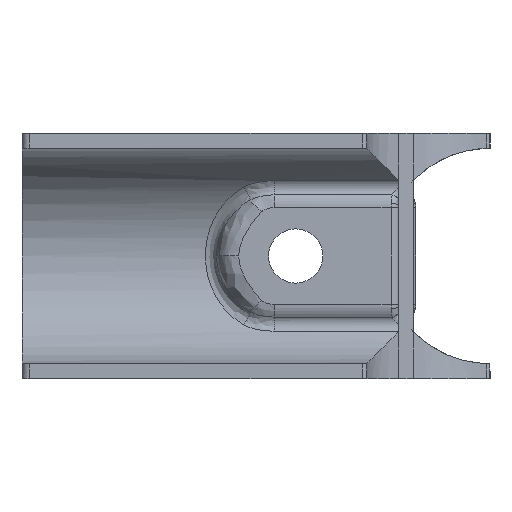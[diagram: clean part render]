
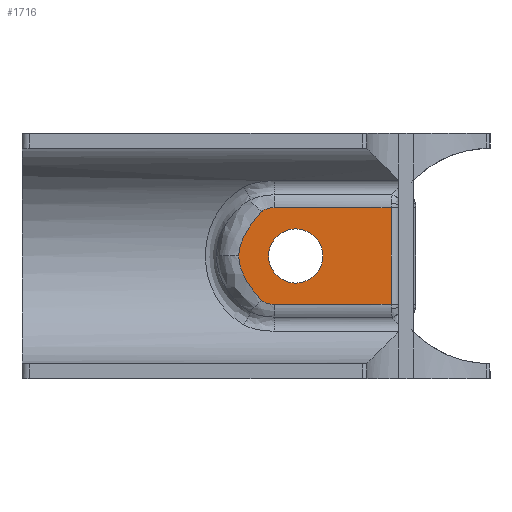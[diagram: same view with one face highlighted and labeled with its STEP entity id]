
A CAD part, front view. The second image highlights one B-rep face of the part: STEP entity #1716.
In plain terms, the highlighted planar face has unit normal (0, -1, 0).
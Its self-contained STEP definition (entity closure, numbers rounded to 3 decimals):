
#48 = CARTESIAN_POINT ( 'NONE',  ( -28.64, 10., 22.442 ) ) ;
#73 = CARTESIAN_POINT ( 'NONE',  ( -31.5, 10., 15.083 ) ) ;
#78 = ORIENTED_EDGE ( 'NONE', *, *, #686, .T. ) ;
#144 = CARTESIAN_POINT ( 'NONE',  ( -27.103, 10., 9.989 ) ) ;
#145 = CARTESIAN_POINT ( 'NONE',  ( -30.966, 10., 13.757 ) ) ;
#181 = ORIENTED_EDGE ( 'NONE', *, *, #4298, .T. ) ;
#183 = CARTESIAN_POINT ( 'NONE',  ( -26.95, 10., 9.989 ) ) ;
#223 = ORIENTED_EDGE ( 'NONE', *, *, #5110, .T. ) ;
#355 = LINE ( 'NONE', #1715, #2782 ) ;
#448 = CARTESIAN_POINT ( 'NONE',  ( -30.841, 10., 19.48 ) ) ;
#467 = AXIS2_PLACEMENT_3D ( 'NONE', #1738, #3435, #3083 ) ;
#474 = CARTESIAN_POINT ( 'NONE',  ( -26.95, 10., 23.011 ) ) ;
#480 = B_SPLINE_CURVE_WITH_KNOTS ( 'NONE', 3,
 ( #3905, #5205, #507, #2621, #5182, #448, #5239, #3515, #862, #3457, #4808, #3942 ),
 .UNSPECIFIED., .F., .F.,
 ( 4, 2, 2, 2, 2, 4 ),
 ( 0., 0.002, 0.003, 0.004, 0.005, 0.007 ),
 .UNSPECIFIED. ) ;
#507 = CARTESIAN_POINT ( 'NONE',  ( -29.409, 10., 21.599 ) ) ;
#509 = DIRECTION ( 'NONE',  ( 0., 0., 1. ) ) ;
#544 = CARTESIAN_POINT ( 'NONE',  ( -29.402, 10., 11.404 ) ) ;
#558 = CARTESIAN_POINT ( 'NONE',  ( -11.2, 10., 9.989 ) ) ;
#639 = EDGE_CURVE ( 'NONE', #4558, #3834, #2470, .T. ) ;
#647 = AXIS2_PLACEMENT_3D ( 'NONE', #750, #798, #4700 ) ;
#686 = EDGE_CURVE ( 'NONE', #2090, #3628, #480, .T. ) ;
#733 = CARTESIAN_POINT ( 'NONE',  ( -26.95, 10., 23.011 ) ) ;
#750 = CARTESIAN_POINT ( 'NONE',  ( -24.05, 10., 16.5 ) ) ;
#798 = DIRECTION ( 'NONE',  ( 0., -1., 0. ) ) ;
#862 = CARTESIAN_POINT ( 'NONE',  ( -31.322, 10., 18.448 ) ) ;
#888 = CARTESIAN_POINT ( 'NONE',  ( -31.673, 10., 15.922 ) ) ;
#928 = CARTESIAN_POINT ( 'NONE',  ( -29.034, 10., 10.972 ) ) ;
#969 = CARTESIAN_POINT ( 'NONE',  ( -27.703, 10., 10.077 ) ) ;
#975 = ORIENTED_EDGE ( 'NONE', *, *, #5488, .T. ) ;
#1008 = CARTESIAN_POINT ( 'NONE',  ( -27.993, 10., 10.168 ) ) ;
#1048 = CARTESIAN_POINT ( 'NONE',  ( -28.526, 10., 10.456 ) ) ;
#1065 = ORIENTED_EDGE ( 'NONE', *, *, #2852, .T. ) ;
#1189 = ORIENTED_EDGE ( 'NONE', *, *, #2414, .F. ) ;
#1192 = AXIS2_PLACEMENT_3D ( 'NONE', #2526, #5536, #3844 ) ;
#1274 = CARTESIAN_POINT ( 'NONE',  ( -27.992, 10., 22.832 ) ) ;
#1342 = CARTESIAN_POINT ( 'NONE',  ( -24.05, 10., 20.15 ) ) ;
#1385 = CARTESIAN_POINT ( 'NONE',  ( -28.64, 10., 10.558 ) ) ;
#1463 = CARTESIAN_POINT ( 'NONE',  ( -27.254, 10., 10. ) ) ;
#1712 = FACE_OUTER_BOUND ( 'NONE', #5140, .T. ) ;
#1715 = CARTESIAN_POINT ( 'NONE',  ( -11.2, 10., 16.5 ) ) ;
#1716 = ADVANCED_FACE ( 'NONE', ( #1712, #3402 ), #5107, .F. ) ;
#1738 = CARTESIAN_POINT ( 'NONE',  ( -24.05, 10., 16.5 ) ) ;
#1769 = B_SPLINE_CURVE_WITH_KNOTS ( 'NONE', 3,
 ( #2761, #3617, #1048, #4873, #2286, #5304, #1008, #969, #4042, #1463, #144, #183 ),
 .UNSPECIFIED., .F., .F.,
 ( 4, 2, 2, 2, 2, 4 ),
 ( 0., 0., 0., 0.001, 0.001, 0.002 ),
 .UNSPECIFIED. ) ;
#1802 = CARTESIAN_POINT ( 'NONE',  ( -28.843, 10., 10.761 ) ) ;
#2090 = VERTEX_POINT ( 'NONE', #3623 ) ;
#2159 = ORIENTED_EDGE ( 'NONE', *, *, #4498, .T. ) ;
#2279 = VERTEX_POINT ( 'NONE', #733 ) ;
#2286 = CARTESIAN_POINT ( 'NONE',  ( -28.334, 10., 10.33 ) ) ;
#2342 = CARTESIAN_POINT ( 'NONE',  ( -24.05, 10., 12.85 ) ) ;
#2372 = DIRECTION ( 'NONE',  ( 1., 0., 0. ) ) ;
#2373 = CIRCLE ( 'NONE', #647, 3.65 ) ;
#2414 = EDGE_CURVE ( 'NONE', #3834, #4558, #2373, .T. ) ;
#2442 = VECTOR ( 'NONE', #5159, 1000. ) ;
#2470 = CIRCLE ( 'NONE', #467, 3.65 ) ;
#2523 = CARTESIAN_POINT ( 'NONE',  ( -28.64, 10., 10.558 ) ) ;
#2526 = CARTESIAN_POINT ( 'NONE',  ( -26.95, 10., 16.5 ) ) ;
#2601 = CARTESIAN_POINT ( 'NONE',  ( -28.401, 10., 22.63 ) ) ;
#2621 = CARTESIAN_POINT ( 'NONE',  ( -30.098, 10., 20.688 ) ) ;
#2630 = CARTESIAN_POINT ( 'NONE',  ( -27.559, 10., 22.967 ) ) ;
#2761 = CARTESIAN_POINT ( 'NONE',  ( -28.64, 10., 10.558 ) ) ;
#2782 = VECTOR ( 'NONE', #509, 1000. ) ;
#2786 = LINE ( 'NONE', #474, #2442 ) ;
#2793 = VERTEX_POINT ( 'NONE', #2523 ) ;
#2852 = EDGE_CURVE ( 'NONE', #2279, #2090, #3822, .T. ) ;
#2888 = ORIENTED_EDGE ( 'NONE', *, *, #4281, .T. ) ;
#2933 = B_SPLINE_CURVE_WITH_KNOTS ( 'NONE', 3,
 ( #5548, #5516, #888, #4751, #73, #3967, #4377, #145, #3109, #5243, #4416, #3069, #544, #928, #1802, #1385 ),
 .UNSPECIFIED., .F., .F.,
 ( 4, 2, 2, 2, 2, 2, 2, 4 ),
 ( 0., 0.001, 0.002, 0.003, 0.003, 0.005, 0.006, 0.007 ),
 .UNSPECIFIED. ) ;
#3013 = EDGE_LOOP ( 'NONE', ( #4854, #1189 ) ) ;
#3032 = CARTESIAN_POINT ( 'NONE',  ( -28.336, 10., 22.668 ) ) ;
#3069 = CARTESIAN_POINT ( 'NONE',  ( -29.579, 10., 11.625 ) ) ;
#3083 = DIRECTION ( 'NONE',  ( 0., 0., -1. ) ) ;
#3109 = CARTESIAN_POINT ( 'NONE',  ( -30.833, 10., 13.505 ) ) ;
#3402 = FACE_BOUND ( 'NONE', #3013, .T. ) ;
#3435 = DIRECTION ( 'NONE',  ( 0., -1., 0. ) ) ;
#3457 = CARTESIAN_POINT ( 'NONE',  ( -31.594, 10., 17.634 ) ) ;
#3515 = CARTESIAN_POINT ( 'NONE',  ( -31.213, 10., 18.714 ) ) ;
#3617 = CARTESIAN_POINT ( 'NONE',  ( -28.586, 10., 10.503 ) ) ;
#3620 = VERTEX_POINT ( 'NONE', #4335 ) ;
#3623 = CARTESIAN_POINT ( 'NONE',  ( -28.64, 10., 22.442 ) ) ;
#3628 = VERTEX_POINT ( 'NONE', #4312 ) ;
#3696 = VECTOR ( 'NONE', #2372, 1000. ) ;
#3822 = B_SPLINE_CURVE_WITH_KNOTS ( 'NONE', 3,
 ( #4688, #3888, #2630, #1274, #4337, #3032, #2601, #4285, #4772, #48 ),
 .UNSPECIFIED., .F., .F.,
 ( 4, 2, 2, 2, 4 ),
 ( 0., 0.001, 0.001, 0.002, 0.002 ),
 .UNSPECIFIED. ) ;
#3834 = VERTEX_POINT ( 'NONE', #1342 ) ;
#3844 = DIRECTION ( 'NONE',  ( 0., 0., 1. ) ) ;
#3888 = CARTESIAN_POINT ( 'NONE',  ( -27.256, 10., 23.011 ) ) ;
#3905 = CARTESIAN_POINT ( 'NONE',  ( -28.64, 10., 22.442 ) ) ;
#3942 = CARTESIAN_POINT ( 'NONE',  ( -31.7, 10., 16.5 ) ) ;
#3967 = CARTESIAN_POINT ( 'NONE',  ( -31.318, 10., 14.543 ) ) ;
#4042 = CARTESIAN_POINT ( 'NONE',  ( -27.554, 10., 10.044 ) ) ;
#4281 = EDGE_CURVE ( 'NONE', #4610, #2279, #2786, .T. ) ;
#4285 = CARTESIAN_POINT ( 'NONE',  ( -28.526, 10., 22.544 ) ) ;
#4298 = EDGE_CURVE ( 'NONE', #4853, #4610, #355, .T. ) ;
#4312 = CARTESIAN_POINT ( 'NONE',  ( -31.7, 10., 16.5 ) ) ;
#4335 = CARTESIAN_POINT ( 'NONE',  ( -26.95, 10., 9.989 ) ) ;
#4337 = CARTESIAN_POINT ( 'NONE',  ( -28.135, 10., 22.775 ) ) ;
#4377 = CARTESIAN_POINT ( 'NONE',  ( -31.209, 10., 14.276 ) ) ;
#4416 = CARTESIAN_POINT ( 'NONE',  ( -30.091, 10., 12.302 ) ) ;
#4473 = LINE ( 'NONE', #4580, #3696 ) ;
#4498 = EDGE_CURVE ( 'NONE', #2793, #3620, #1769, .T. ) ;
#4558 = VERTEX_POINT ( 'NONE', #2342 ) ;
#4580 = CARTESIAN_POINT ( 'NONE',  ( -26.95, 10., 9.989 ) ) ;
#4610 = VERTEX_POINT ( 'NONE', #5390 ) ;
#4688 = CARTESIAN_POINT ( 'NONE',  ( -26.95, 10., 23.011 ) ) ;
#4700 = DIRECTION ( 'NONE',  ( 0., 0., -1. ) ) ;
#4751 = CARTESIAN_POINT ( 'NONE',  ( -31.573, 10., 15.359 ) ) ;
#4772 = CARTESIAN_POINT ( 'NONE',  ( -28.586, 10., 22.497 ) ) ;
#4808 = CARTESIAN_POINT ( 'NONE',  ( -31.7, 10., 17.077 ) ) ;
#4853 = VERTEX_POINT ( 'NONE', #558 ) ;
#4854 = ORIENTED_EDGE ( 'NONE', *, *, #639, .F. ) ;
#4873 = CARTESIAN_POINT ( 'NONE',  ( -28.399, 10., 10.369 ) ) ;
#5107 = PLANE ( 'NONE',  #1192 ) ;
#5110 = EDGE_CURVE ( 'NONE', #3620, #4853, #4473, .T. ) ;
#5140 = EDGE_LOOP ( 'NONE', ( #223, #181, #2888, #1065, #78, #975, #2159 ) ) ;
#5159 = DIRECTION ( 'NONE',  ( -1., 0., 0. ) ) ;
#5182 = CARTESIAN_POINT ( 'NONE',  ( -30.416, 10., 20.217 ) ) ;
#5205 = CARTESIAN_POINT ( 'NONE',  ( -29.043, 10., 22.037 ) ) ;
#5239 = CARTESIAN_POINT ( 'NONE',  ( -30.973, 10., 19.23 ) ) ;
#5243 = CARTESIAN_POINT ( 'NONE',  ( -30.408, 10., 12.769 ) ) ;
#5304 = CARTESIAN_POINT ( 'NONE',  ( -28.133, 10., 10.225 ) ) ;
#5390 = CARTESIAN_POINT ( 'NONE',  ( -11.2, 10., 23.011 ) ) ;
#5488 = EDGE_CURVE ( 'NONE', #3628, #2793, #2933, .T. ) ;
#5516 = CARTESIAN_POINT ( 'NONE',  ( -31.7, 10., 16.211 ) ) ;
#5536 = DIRECTION ( 'NONE',  ( 0., 1., 0. ) ) ;
#5548 = CARTESIAN_POINT ( 'NONE',  ( -31.7, 10., 16.5 ) ) ;
